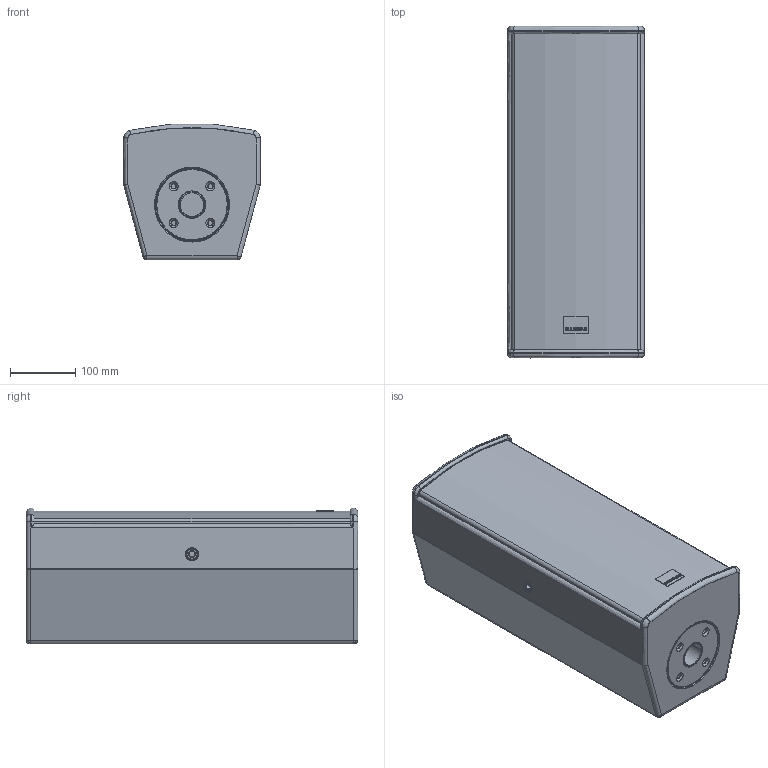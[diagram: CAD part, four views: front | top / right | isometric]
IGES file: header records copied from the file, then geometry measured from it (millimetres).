
Start section: SolidWorks IGES file using analytic representation for surfaces
Global section: file name: C:\Dokumente und Einstellungen\PC_Fabian\Desktop\3d_Dateien_Homepage\A-Serie\SEEBURG_A2.IGS; native system: SolidWorks 2009; preprocessor: SolidWorks 2009; author: PC_Fabian; date: 120927.152146; units: millimetre
Bounding box: 210 x 510 x 208.8 mm (x, y, z)
Surface area: 1130608.6 mm2 (no closed solid volume)
Topology: 0 solids, 0 shells, 411 faces, 4890 edges, 4888 vertices
Faces by surface type: revolution 220, bspline 191
